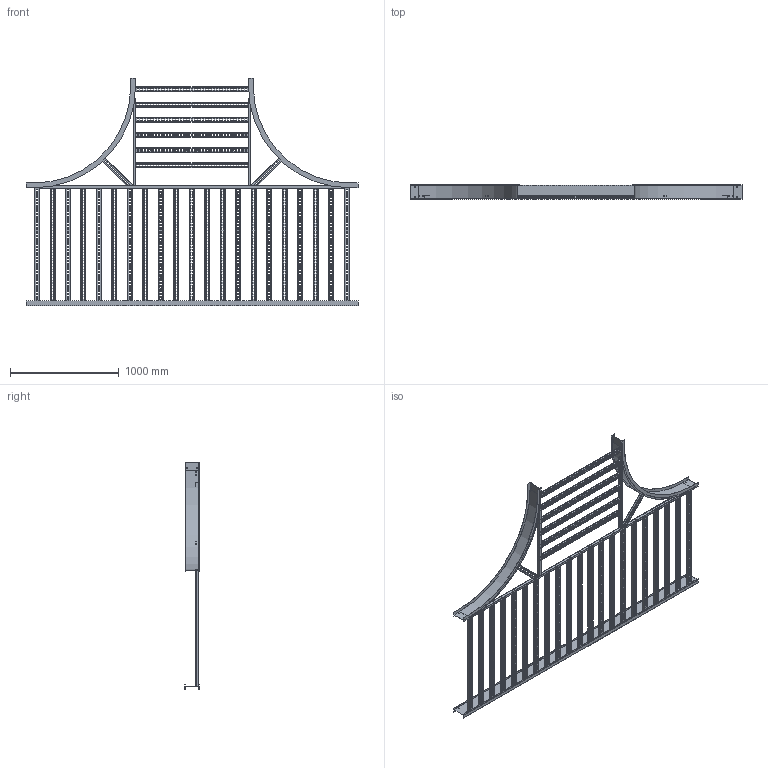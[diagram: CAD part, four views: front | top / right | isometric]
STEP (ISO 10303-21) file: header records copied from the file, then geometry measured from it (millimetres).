
FILE_DESCRIPTION((''),'2;1');
FILE_NAME('AHF542VHT36_ASM','2010-01-28T',('erouzier'),(''),'PRO/ENGINEER BY PARAMETRIC TECHNOLOGY CORPORATION, 2008510','PRO/ENGINEER BY PARAMETRIC TECHNOLOGY CORPORATION, 2008510','');
FILE_SCHEMA(('CONFIG_CONTROL_DESIGN'));
Length unit declared in the file: inch
Products named in the file (21): CDS001811-5-90-36-I; CDS013846-5-120; CDS000495_GEN_AF9; CDS002159L42-P_AF16; CDS002159L42-P_AF17; CDS002159L42-P_AF18; CDS002159L42-P_AF19; CDS002159L42-P; CDS002159L42-P_AF20; CDS002159L42-P_AF21; CDS002159L42-P_AF22; CDS002159L42-P_AF23; CDS000495_GEN_AF10; CDS000495_GEN_AF11; CDS002159L18-P_AF16; CDS002159L18-P_AF17; CDS002159L42-P_AF12; CDS002159L42-P_AF13; CDS002159L42-P_AF14; CDS002159L42-P_AF15; AHF542VHT36_ASM
Assembly tree (35 placements, depth 2):
  AHF542VHT36_ASM
    CDS001811-5-90-36-I  x2
    CDS013846-5-120
    CDS000495_GEN_AF9
    CDS002159L42-P_AF16
    CDS002159L42-P_AF17
    CDS002159L42-P_AF18
    CDS002159L42-P_AF19
    CDS002159L42-P  x15
    CDS002159L42-P_AF20
    CDS002159L42-P_AF21
    CDS002159L42-P_AF22
    CDS002159L42-P_AF23
    CDS000495_GEN_AF10
    CDS000495_GEN_AF11
    CDS002159L18-P_AF16
    CDS002159L18-P_AF17
    CDS002159L42-P_AF12
    CDS002159L42-P_AF13
    CDS002159L42-P_AF14
    CDS002159L42-P_AF15
Bounding box: 3052.06 x 129.54 x 2090.04 mm (x, y, z)
Volume: 7289302.6 mm3; surface area: 9793842.9 mm2
Topology: 35 solids, 35 shells, 9862 faces, 29376 edges, 19584 vertices
Faces by surface type: plane 5109, cylinder 4753
Entity records: 169083 total; most frequent: CARTESIAN_POINT 29548, ORIENTED_EDGE 29280, DIRECTION 29254, EDGE_CURVE 14640, VECTOR 9934, LINE 9934, VERTEX_POINT 9760, AXIS2_PLACEMENT_3D 9660
